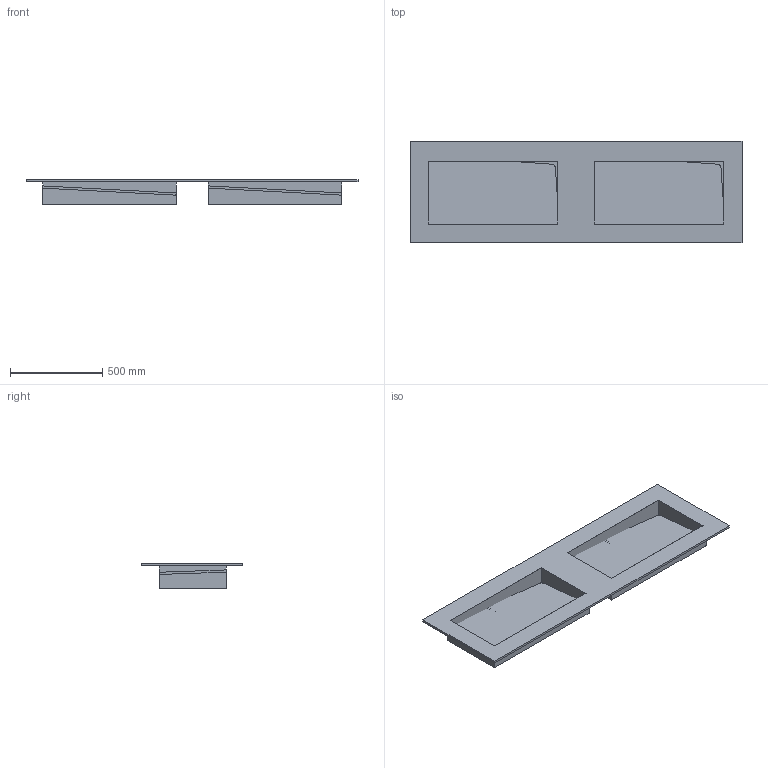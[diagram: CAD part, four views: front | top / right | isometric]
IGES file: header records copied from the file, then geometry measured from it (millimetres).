
Global section: file name: D:\Desktop\GIOVANNI\SCHEDE PRODOTTO\PIANI LAVABO\CAPRI\3D\MOMA DESIGN_PIANI LAVABO_CAPRI MODULE DOUBLE.igs; native system: Rhinoceros ( Jan 17 2018 ); preprocessor: Trout Lake IGES 012 Jan 17 2018; date: 230607.123445; units: millimetre
Bounding box: 1804 x 552 x 133 mm (x, y, z)
Surface area: 4123895.1 mm2 (no closed solid volume)
Topology: 0 solids, 0 shells, 114 faces, 504 edges, 504 vertices
Faces by surface type: bspline 114
